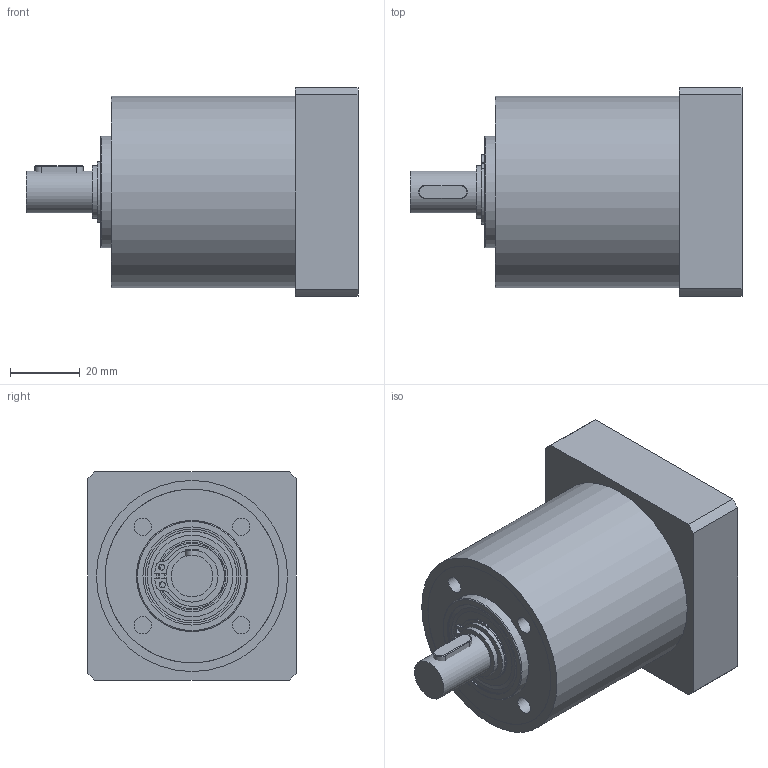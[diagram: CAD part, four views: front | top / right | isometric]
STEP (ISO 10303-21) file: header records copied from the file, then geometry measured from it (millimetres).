
FILE_DESCRIPTION(/* description */ (''),/* implementation_level */ '2;1');
FILE_NAME(/* name */ 'pnMP1651827948886_step214.stp',/* time_stamp */ '2022-05-06T11:06:13+02:00',/* author */ (''),/* organization */ (''),/* preprocessor_version */ 'ST-DEVELOPER v16.7',/* originating_system */ 'SIEMENS PLM Software NX 1884',/* authorisation */ '');
FILE_SCHEMA (('AUTOMOTIVE_DESIGN { 1 0 10303 214 0 1 1 1 }'));
Length unit declared in the file: millimetre
Products named in the file (1): pnMP1651827948886_M
Bounding box: 95.5 x 60 x 60 mm (x, y, z)
Volume: 180419.1 mm3; surface area: 54688.6 mm2
Topology: 23 solids, 23 shells, 200 faces, 399 edges, 252 vertices
Faces by surface type: plane 84, cylinder 70, cone 25, torus 12, sphere 9
Full cylindrical faces by diameter (mm): 1.7 x2, 4 x9, 5 x4, 7.22 x1, 7.5 x1, 9.75 x1, 10 x1, 12 x1, 12.5 x1, 14.3 x1, 15 x5, 18.7 x4, 20.5 x2, 23.5 x1, 27 x2, 28.2 x4, 32 x5, 35.5 x1, 38.1 x1, 50 x5, 55 x1
Entity records: 4802 total; most frequent: DIRECTION 846, CARTESIAN_POINT 831, ORIENTED_EDGE 564, AXIS2_PLACEMENT_3D 377, EDGE_LOOP 324, EDGE_CURVE 282, FACE_BOUND 258, VERTEX_POINT 234
